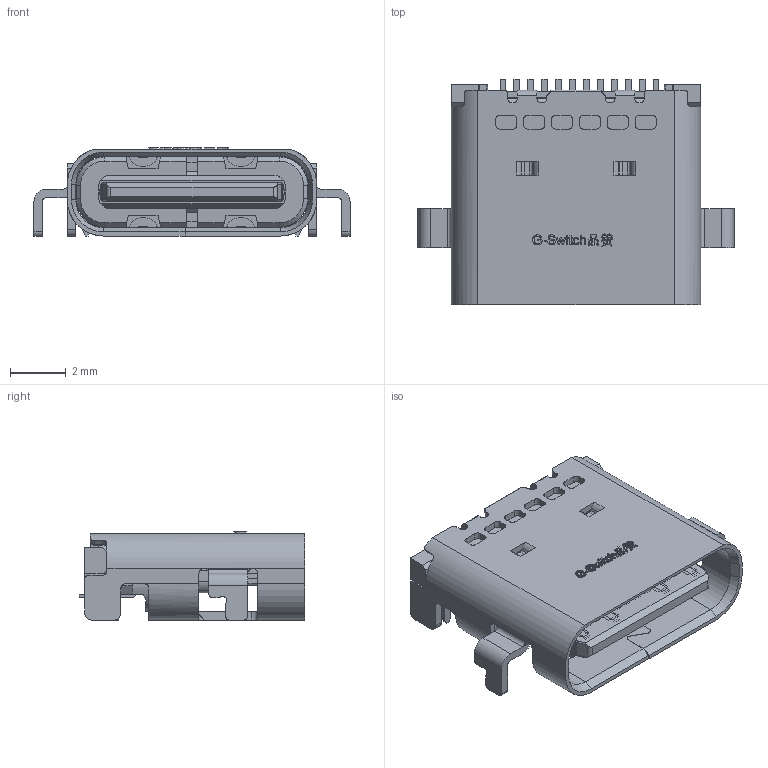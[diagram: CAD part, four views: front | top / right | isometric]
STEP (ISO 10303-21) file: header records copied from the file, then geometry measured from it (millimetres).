
FILE_DESCRIPTION (( 'STEP AP203' ), '1' );
FILE_NAME ('GT-USB-7007A.STEP', '2024-12-16T07:26:22', ( '' ), ( '' ), 'SwSTEP 2.0', 'SolidWorks 2023', '' );
FILE_SCHEMA (( 'CONFIG_CONTROL_DESIGN' ));
Length unit declared in the file: millimetre
Products named in the file (4): TYPE-CF-24P-CB-SHELL.STEP; TYPE C 24P双排SMT母座沉板0.80.STEP; GT-USB-7007A; ____80^TYPE C 24P____SMT________0.80____.STEP
Assembly tree (3 placements, depth 3):
  GT-USB-7007A
    TYPE C 24P双排SMT母座沉板0.80.STEP
      ____80^TYPE C 24P____SMT________0.80____.STEP
      TYPE-CF-24P-CB-SHELL.STEP
Bounding box: 11.34 x 8.1 x 3.16 mm (x, y, z)
Volume: 144 mm3; surface area: 929.7 mm2
Topology: 30 solids, 30 shells, 2352 faces, 6525 edges, 4284 vertices
Faces by surface type: plane 1632, cylinder 556, bspline 80, torus 56, cone 28
Entity records: 79146 total; most frequent: CARTESIAN_POINT 18098, ORIENTED_EDGE 13050, DIRECTION 12040, EDGE_CURVE 6525, VECTOR 5056, LINE 5056, VERTEX_POINT 4284, AXIS2_PLACEMENT_3D 3492
